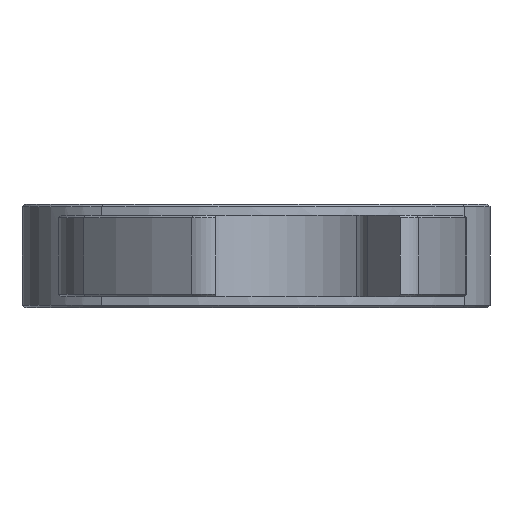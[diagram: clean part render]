
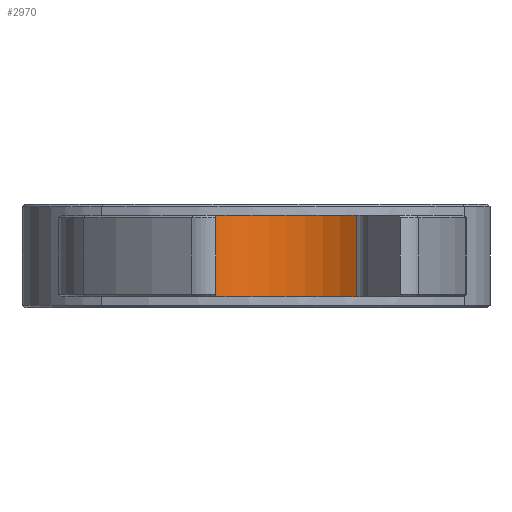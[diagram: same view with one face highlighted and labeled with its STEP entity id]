
A CAD part, left-side view. The second image highlights one B-rep face of the part: STEP entity #2970.
In plain terms, the highlighted cylindrical face has radius 21 mm (diameter 42 mm), a partial arc.
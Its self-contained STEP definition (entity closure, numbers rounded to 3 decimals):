
#78=CYLINDRICAL_SURFACE('',#3223,21.);
#183=CIRCLE('',#3218,21.);
#186=CIRCLE('',#3224,21.);
#389=FACE_OUTER_BOUND('',#560,.T.);
#560=EDGE_LOOP('',(#2701,#2702,#2703,#2704));
#893=LINE('',#5439,#1146);
#894=LINE('',#5443,#1147);
#1146=VECTOR('',#3935,10.);
#1147=VECTOR('',#3940,10.);
#1426=VERTEX_POINT('',#5427);
#1427=VERTEX_POINT('',#5429);
#1429=VERTEX_POINT('',#5437);
#1430=VERTEX_POINT('',#5441);
#1857=EDGE_CURVE('',#1426,#1427,#183,.T.);
#1862=EDGE_CURVE('',#1426,#1429,#893,.T.);
#1863=EDGE_CURVE('',#1430,#1429,#186,.T.);
#1864=EDGE_CURVE('',#1427,#1430,#894,.T.);
#2701=ORIENTED_EDGE('',*,*,#1862,.T.);
#2702=ORIENTED_EDGE('',*,*,#1863,.F.);
#2703=ORIENTED_EDGE('',*,*,#1864,.F.);
#2704=ORIENTED_EDGE('',*,*,#1857,.F.);
#2970=ADVANCED_FACE('',(#389),#78,.F.);
#3218=AXIS2_PLACEMENT_3D('',#5430,#3923,#3924);
#3223=AXIS2_PLACEMENT_3D('',#5440,#3936,#3937);
#3224=AXIS2_PLACEMENT_3D('',#5442,#3938,#3939);
#3923=DIRECTION('center_axis',(0.,0.,1.));
#3924=DIRECTION('ref_axis',(-0.813,0.582,0.));
#3935=DIRECTION('',(0.,0.,1.));
#3936=DIRECTION('center_axis',(0.,0.,1.));
#3937=DIRECTION('ref_axis',(-0.813,0.582,0.));
#3938=DIRECTION('center_axis',(0.,0.,-1.));
#3939=DIRECTION('ref_axis',(-0.813,0.582,0.));
#3940=DIRECTION('',(0.,0.,1.));
#5427=CARTESIAN_POINT('',(-135.709,-17.66,-7.5));
#5429=CARTESIAN_POINT('',(-144.109,13.689,-7.5));
#5430=CARTESIAN_POINT('Origin',(-152.784,-5.435,-7.5));
#5437=CARTESIAN_POINT('',(-135.709,-17.66,7.5));
#5439=CARTESIAN_POINT('',(-135.709,-17.66,0.));
#5440=CARTESIAN_POINT('Origin',(-152.784,-5.435,0.));
#5441=CARTESIAN_POINT('',(-144.109,13.689,7.5));
#5442=CARTESIAN_POINT('Origin',(-152.784,-5.435,7.5));
#5443=CARTESIAN_POINT('',(-144.109,13.689,0.));
